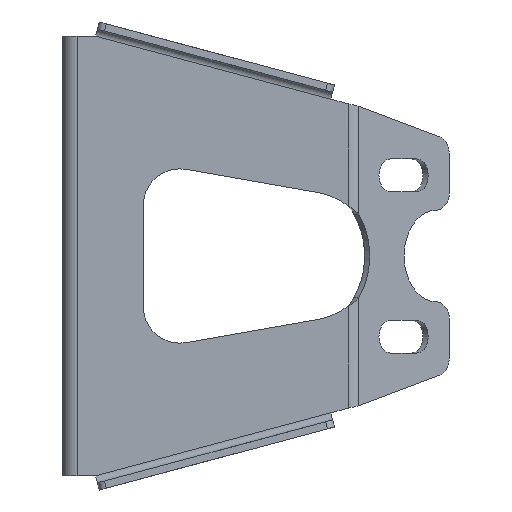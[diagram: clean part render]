
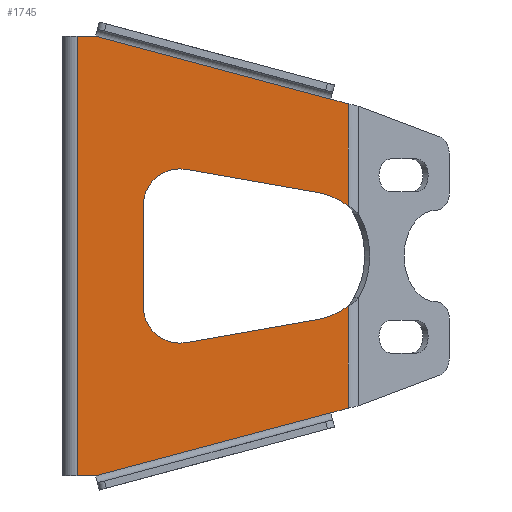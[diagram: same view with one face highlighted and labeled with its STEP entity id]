
A CAD part, front view. The second image highlights one B-rep face of the part: STEP entity #1745.
In plain terms, the highlighted planar face has unit normal (0, -1, 0).
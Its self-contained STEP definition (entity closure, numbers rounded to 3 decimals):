
#357=PLANE('',#1893);
#424=FACE_OUTER_BOUND('',#506,.T.);
#506=EDGE_LOOP('',(#1526,#1527,#1528,#1529,#1530,#1531,#1532,#1533,#1534,
#1535,#1536,#1537,#1538,#1539,#1540,#1541));
#536=LINE('',#2431,#678);
#552=LINE('',#2479,#694);
#592=LINE('',#2605,#734);
#609=LINE('',#2655,#751);
#613=LINE('',#2663,#755);
#618=LINE('',#2678,#760);
#621=LINE('',#2689,#763);
#623=LINE('',#2693,#765);
#634=LINE('',#2772,#776);
#637=LINE('',#2786,#779);
#645=LINE('',#2825,#787);
#648=LINE('',#2846,#790);
#678=VECTOR('',#1966,10.);
#694=VECTOR('',#2004,10.);
#734=VECTOR('',#2128,10.);
#751=VECTOR('',#2183,10.);
#755=VECTOR('',#2189,10.);
#760=VECTOR('',#2202,10.);
#763=VECTOR('',#2213,10.);
#765=VECTOR('',#2217,10.);
#776=VECTOR('',#2246,10.);
#779=VECTOR('',#2251,10.);
#787=VECTOR('',#2267,10.);
#790=VECTOR('',#2274,10.);
#860=CIRCLE('',#1871,10.);
#862=CIRCLE('',#1875,10.);
#863=CIRCLE('',#1879,17.5);
#867=CIRCLE('',#1885,17.5);
#899=VERTEX_POINT('',#2428);
#900=VERTEX_POINT('',#2430);
#920=VERTEX_POINT('',#2476);
#921=VERTEX_POINT('',#2478);
#965=VERTEX_POINT('',#2598);
#979=VERTEX_POINT('',#2650);
#982=VERTEX_POINT('',#2661);
#985=VERTEX_POINT('',#2668);
#986=VERTEX_POINT('',#2670);
#988=VERTEX_POINT('',#2676);
#991=VERTEX_POINT('',#2683);
#992=VERTEX_POINT('',#2685);
#993=VERTEX_POINT('',#2692);
#995=VERTEX_POINT('',#2698);
#1004=VERTEX_POINT('',#2738);
#1006=VERTEX_POINT('',#2781);
#1032=EDGE_CURVE('',#899,#900,#536,.T.);
#1056=EDGE_CURVE('',#920,#921,#552,.T.);
#1119=EDGE_CURVE('',#965,#900,#592,.T.);
#1144=EDGE_CURVE('',#920,#979,#609,.T.);
#1148=EDGE_CURVE('',#979,#982,#613,.T.);
#1151=EDGE_CURVE('',#985,#986,#860,.T.);
#1155=EDGE_CURVE('',#985,#988,#618,.T.);
#1158=EDGE_CURVE('',#991,#992,#862,.T.);
#1160=EDGE_CURVE('',#991,#986,#621,.T.);
#1162=EDGE_CURVE('',#993,#992,#623,.T.);
#1165=EDGE_CURVE('',#995,#993,#863,.T.);
#1181=EDGE_CURVE('',#988,#1004,#867,.T.);
#1182=EDGE_CURVE('',#982,#995,#634,.T.);
#1187=EDGE_CURVE('',#1004,#1006,#637,.T.);
#1197=EDGE_CURVE('',#1006,#965,#645,.T.);
#1200=EDGE_CURVE('',#921,#899,#648,.T.);
#1526=ORIENTED_EDGE('',*,*,#1181,.T.);
#1527=ORIENTED_EDGE('',*,*,#1187,.T.);
#1528=ORIENTED_EDGE('',*,*,#1197,.T.);
#1529=ORIENTED_EDGE('',*,*,#1119,.T.);
#1530=ORIENTED_EDGE('',*,*,#1032,.F.);
#1531=ORIENTED_EDGE('',*,*,#1200,.F.);
#1532=ORIENTED_EDGE('',*,*,#1056,.F.);
#1533=ORIENTED_EDGE('',*,*,#1144,.T.);
#1534=ORIENTED_EDGE('',*,*,#1148,.T.);
#1535=ORIENTED_EDGE('',*,*,#1182,.T.);
#1536=ORIENTED_EDGE('',*,*,#1165,.T.);
#1537=ORIENTED_EDGE('',*,*,#1162,.T.);
#1538=ORIENTED_EDGE('',*,*,#1158,.F.);
#1539=ORIENTED_EDGE('',*,*,#1160,.T.);
#1540=ORIENTED_EDGE('',*,*,#1151,.F.);
#1541=ORIENTED_EDGE('',*,*,#1155,.T.);
#1745=ADVANCED_FACE('',(#424),#357,.T.);
#1871=AXIS2_PLACEMENT_3D('',#2671,#2195,#2196);
#1875=AXIS2_PLACEMENT_3D('',#2686,#2208,#2209);
#1879=AXIS2_PLACEMENT_3D('',#2699,#2222,#2223);
#1885=AXIS2_PLACEMENT_3D('',#2770,#2242,#2243);
#1893=AXIS2_PLACEMENT_3D('',#2845,#2272,#2273);
#1966=DIRECTION('',(1.,0.,0.));
#2004=DIRECTION('',(-1.,0.,0.));
#2128=DIRECTION('',(-0.966,0.,0.259));
#2183=DIRECTION('',(0.966,0.,0.259));
#2189=DIRECTION('',(0.966,0.,0.259));
#2195=DIRECTION('center_axis',(0.,-1.,0.));
#2196=DIRECTION('ref_axis',(-0.643,0.,0.766));
#2202=DIRECTION('',(0.985,0.,-0.174));
#2208=DIRECTION('center_axis',(0.,-1.,0.));
#2209=DIRECTION('ref_axis',(-0.643,0.,-0.766));
#2213=DIRECTION('',(0.,0.,1.));
#2217=DIRECTION('',(-0.985,0.,-0.174));
#2222=DIRECTION('center_axis',(0.,1.,0.));
#2223=DIRECTION('ref_axis',(1.,0.,0.));
#2242=DIRECTION('center_axis',(0.,1.,0.));
#2243=DIRECTION('ref_axis',(1.,0.,0.));
#2246=DIRECTION('',(0.,0.,1.));
#2251=DIRECTION('',(0.,0.,1.));
#2267=DIRECTION('',(-0.966,0.,0.259));
#2272=DIRECTION('center_axis',(0.,-1.,0.));
#2273=DIRECTION('ref_axis',(1.,0.,0.));
#2274=DIRECTION('',(0.,0.,1.));
#2428=CARTESIAN_POINT('',(4.,0.,60.));
#2430=CARTESIAN_POINT('',(9.,0.,60.));
#2431=CARTESIAN_POINT('',(4.,0.,60.));
#2476=CARTESIAN_POINT('',(9.,0.,-60.));
#2478=CARTESIAN_POINT('',(4.,0.,-60.));
#2479=CARTESIAN_POINT('',(4.,0.,-60.));
#2598=CARTESIAN_POINT('',(73.17,0.,42.806));
#2605=CARTESIAN_POINT('',(14.167,0.,58.615));
#2650=CARTESIAN_POINT('',(73.17,0.,-42.806));
#2655=CARTESIAN_POINT('',(14.167,0.,-58.615));
#2661=CARTESIAN_POINT('',(78.,0.,-41.512));
#2663=CARTESIAN_POINT('',(14.167,0.,-58.615));
#2668=CARTESIAN_POINT('',(33.736,0.,23.635));
#2670=CARTESIAN_POINT('',(22.,0.,13.787));
#2671=CARTESIAN_POINT('Origin',(32.,0.,13.787));
#2676=CARTESIAN_POINT('',(70.039,0.,17.234));
#2678=CARTESIAN_POINT('',(15.469,0.,26.856));
#2683=CARTESIAN_POINT('',(22.,0.,-13.787));
#2685=CARTESIAN_POINT('',(33.736,0.,-23.635));
#2686=CARTESIAN_POINT('Origin',(32.,0.,-13.787));
#2689=CARTESIAN_POINT('',(22.,0.,-12.852));
#2692=CARTESIAN_POINT('',(70.039,0.,-17.234));
#2693=CARTESIAN_POINT('',(39.489,0.,-22.621));
#2698=CARTESIAN_POINT('',(78.,0.,-13.611));
#2699=CARTESIAN_POINT('Origin',(67.,0.,0.));
#2738=CARTESIAN_POINT('',(78.,0.,13.611));
#2770=CARTESIAN_POINT('Origin',(67.,0.,0.));
#2772=CARTESIAN_POINT('',(78.,0.,0.));
#2781=CARTESIAN_POINT('',(78.,0.,41.512));
#2786=CARTESIAN_POINT('',(78.,0.,0.));
#2825=CARTESIAN_POINT('',(14.167,0.,58.615));
#2845=CARTESIAN_POINT('Origin',(4.,0.,0.));
#2846=CARTESIAN_POINT('',(4.,0.,0.));
